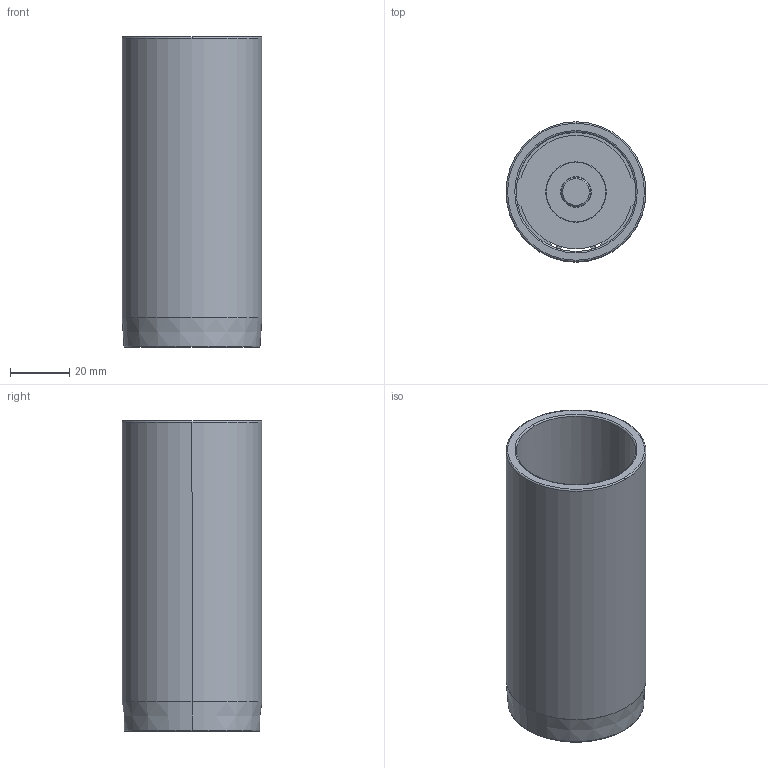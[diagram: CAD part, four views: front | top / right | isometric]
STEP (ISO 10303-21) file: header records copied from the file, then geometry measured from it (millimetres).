
FILE_DESCRIPTION((''),'2;1');
FILE_NAME('C12_040_105.stp','2009-01-28T11:34:32',(''),(''),'Mechanical Desktop 2009','Mechanical Desktop 2009',', , ');
FILE_SCHEMA(('CONFIG_CONTROL_DESIGN'));
Length unit declared in the file: millimetre
Products named in the file (2): Product; blmdl1
Assembly tree (1 placements, depth 2):
  Product
    blmdl1
Bounding box: 47.25 x 47.25 x 105 mm (x, y, z)
Volume: 55143.3 mm3; surface area: 36355.3 mm2
Topology: 5 solids, 5 shells, 79 faces, 200 edges, 134 vertices
Faces by surface type: cylinder 34, plane 29, torus 10, cone 6
Entity records: 2585 total; most frequent: DIRECTION 480, CARTESIAN_POINT 435, ORIENTED_EDGE 400, AXIS2_PLACEMENT_3D 203, EDGE_CURVE 200, VERTEX_POINT 134, CIRCLE 122, EDGE_LOOP 92
